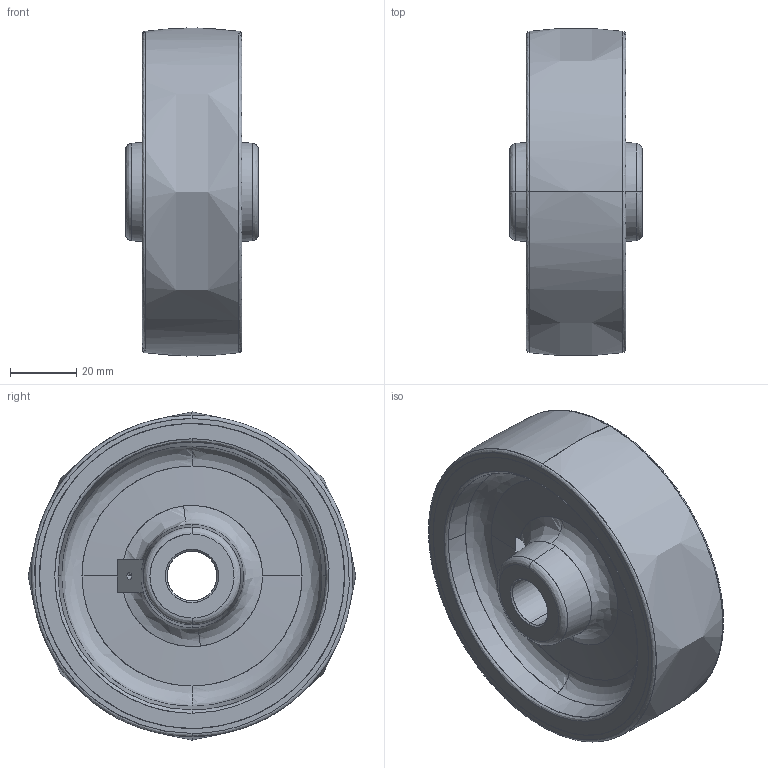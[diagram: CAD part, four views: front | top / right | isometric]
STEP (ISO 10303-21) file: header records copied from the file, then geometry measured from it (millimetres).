
FILE_DESCRIPTION(('STEP AP203'),'2;1');
FILE_NAME('9068_H.stp','2009-12-18T10:29:50',(''),(''),'2008.1.107','THINKDESIGN','');
FILE_SCHEMA(('CONFIG_CONTROL_DESIGN'));
Length unit declared in the file: millimetre
Bounding box: 40 x 98.58 x 98.78 mm (x, y, z)
Surface area: 44503.9 mm2 (no closed solid volume)
Topology: 0 solids, 0 shells, 60 faces, 1506 edges, 1504 vertices
Faces by surface type: bspline 49, plane 9, cylinder 2
Entity records: 9280 total; most frequent: CARTESIAN_POINT 6464, COMPOSITE_CURVE_SEGMENT 1504, QUASI_UNIFORM_CURVE 612, B_SPLINE_CURVE_WITH_KNOTS 169, DIRECTION 90, TRIMMED_CURVE 64, OUTER_BOUNDARY_CURVE 60, CURVE_BOUNDED_SURFACE 60
